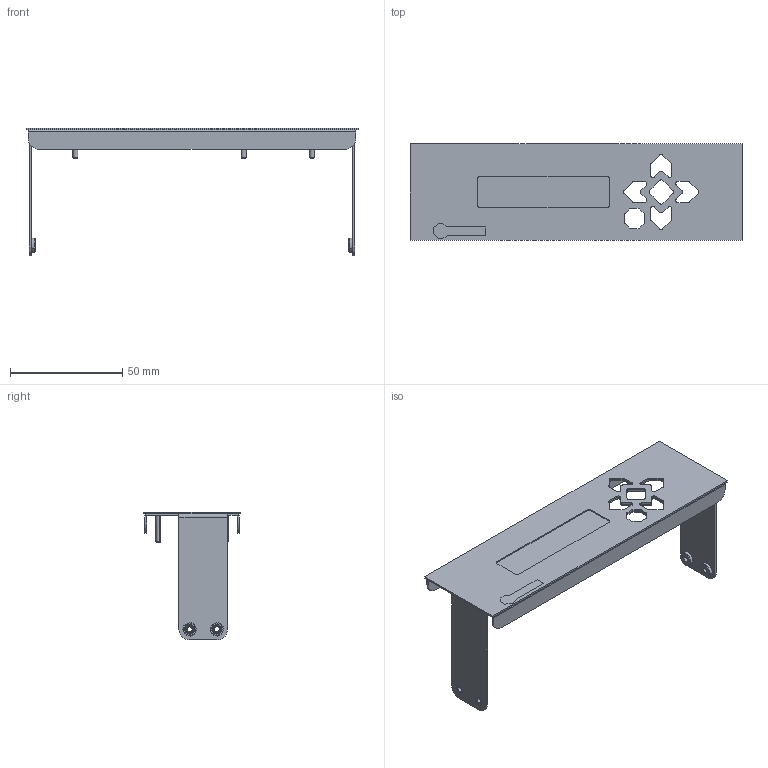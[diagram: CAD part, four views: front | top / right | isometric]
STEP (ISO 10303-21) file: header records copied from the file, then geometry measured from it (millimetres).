
FILE_DESCRIPTION (( 'STEP AP214' ), '1' );
FILE_NAME ('533 attempt.STEP', '2021-01-08T23:43:52', ( '' ), ( '' ), 'SwSTEP 2.0', 'SolidWorks 2020', '' );
FILE_SCHEMA (( 'AUTOMOTIVE_DESIGN' ));
Length unit declared in the file: millimetre
Products named in the file (5): 533 attempt not good dont trust; 533 overlay; flush stud_pmi_PEM FH-256-8 X--N; self-clinching nut_pmi_PEM S-440-0 ZI--N; 533 attempt
Assembly tree (11 placements, depth 2):
  533 attempt
    533 attempt not good dont trust
    self-clinching nut_pmi_PEM S-440-0 ZI--N  x4
    flush stud_pmi_PEM FH-256-8 X--N  x5
    533 overlay
Bounding box: 148 x 43 x 57.06 mm (x, y, z)
Volume: 11192.3 mm3; surface area: 31065.9 mm2
Topology: 12 solids, 12 shells, 1104 faces, 3091 edges, 2034 vertices
Faces by surface type: plane 739, cylinder 248, cone 107, torus 10
Entity records: 17715 total; most frequent: CARTESIAN_POINT 2736, DIRECTION 2565, ORIENTED_EDGE 2562, EDGE_CURVE 1281, LINE 887, VECTOR 887, VERTEX_POINT 842, AXIS2_PLACEMENT_3D 839
